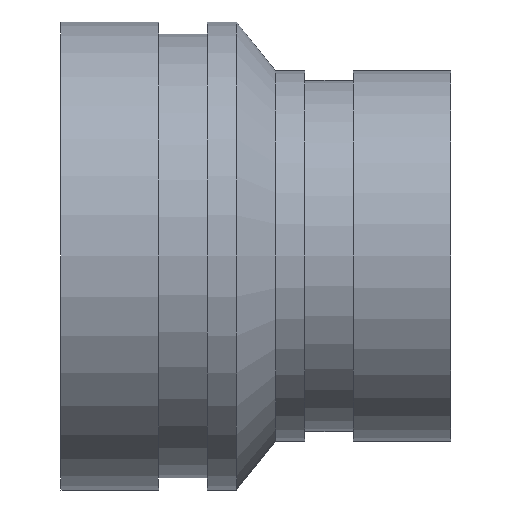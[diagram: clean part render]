
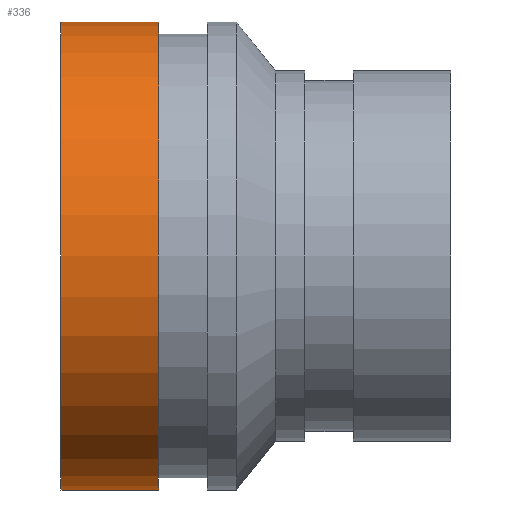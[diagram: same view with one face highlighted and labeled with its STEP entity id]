
A CAD part, front view. The second image highlights one B-rep face of the part: STEP entity #336.
In plain terms, the highlighted cylindrical face has radius 38.1 mm (diameter 76.2 mm), a full revolution.
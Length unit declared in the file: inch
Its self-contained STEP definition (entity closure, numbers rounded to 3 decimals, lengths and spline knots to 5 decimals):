
#45=CYLINDRICAL_SURFACE('',#384,1.5);
#68=FACE_OUTER_BOUND('',#85,.T.);
#85=EDGE_LOOP('',(#245,#246,#247,#248,#249,#250));
#105=LINE('',#599,#115);
#115=VECTOR('',#470,1.5);
#131=CIRCLE('',#380,1.5);
#132=CIRCLE('',#381,1.5);
#135=CIRCLE('',#385,1.5);
#136=CIRCLE('',#386,1.5);
#163=VERTEX_POINT('',#586);
#164=VERTEX_POINT('',#587);
#167=VERTEX_POINT('',#595);
#168=VERTEX_POINT('',#596);
#197=EDGE_CURVE('',#163,#164,#131,.T.);
#198=EDGE_CURVE('',#164,#163,#132,.T.);
#201=EDGE_CURVE('',#167,#168,#135,.T.);
#202=EDGE_CURVE('',#168,#167,#136,.T.);
#203=EDGE_CURVE('',#168,#164,#105,.T.);
#245=ORIENTED_EDGE('',*,*,#201,.F.);
#246=ORIENTED_EDGE('',*,*,#202,.F.);
#247=ORIENTED_EDGE('',*,*,#203,.T.);
#248=ORIENTED_EDGE('',*,*,#198,.T.);
#249=ORIENTED_EDGE('',*,*,#197,.T.);
#250=ORIENTED_EDGE('',*,*,#203,.F.);
#336=ADVANCED_FACE('',(#68),#45,.T.);
#380=AXIS2_PLACEMENT_3D('',#588,#456,#457);
#381=AXIS2_PLACEMENT_3D('',#589,#458,#459);
#384=AXIS2_PLACEMENT_3D('',#594,#464,#465);
#385=AXIS2_PLACEMENT_3D('',#597,#466,#467);
#386=AXIS2_PLACEMENT_3D('',#598,#468,#469);
#456=DIRECTION('center_axis',(1.,0.,0.));
#457=DIRECTION('ref_axis',(0.,1.,0.));
#458=DIRECTION('center_axis',(1.,0.,0.));
#459=DIRECTION('ref_axis',(0.,1.,0.));
#464=DIRECTION('center_axis',(1.,0.,0.));
#465=DIRECTION('ref_axis',(0.,1.,0.));
#466=DIRECTION('center_axis',(1.,0.,0.));
#467=DIRECTION('ref_axis',(0.,1.,0.));
#468=DIRECTION('center_axis',(1.,0.,0.));
#469=DIRECTION('ref_axis',(0.,1.,0.));
#470=DIRECTION('',(-1.,0.,0.));
#586=CARTESIAN_POINT('',(0.,1.5,0.));
#587=CARTESIAN_POINT('',(0.,-1.5,0.));
#588=CARTESIAN_POINT('Origin',(0.,0.,0.));
#589=CARTESIAN_POINT('Origin',(0.,0.,0.));
#594=CARTESIAN_POINT('Origin',(0.3125,0.,0.));
#595=CARTESIAN_POINT('',(0.625,1.5,0.));
#596=CARTESIAN_POINT('',(0.625,-1.5,0.));
#597=CARTESIAN_POINT('Origin',(0.625,0.,0.));
#598=CARTESIAN_POINT('Origin',(0.625,0.,0.));
#599=CARTESIAN_POINT('',(0.3125,-1.5,0.));
